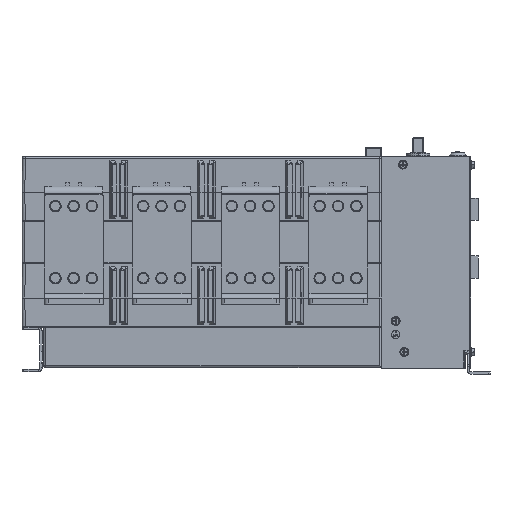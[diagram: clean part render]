
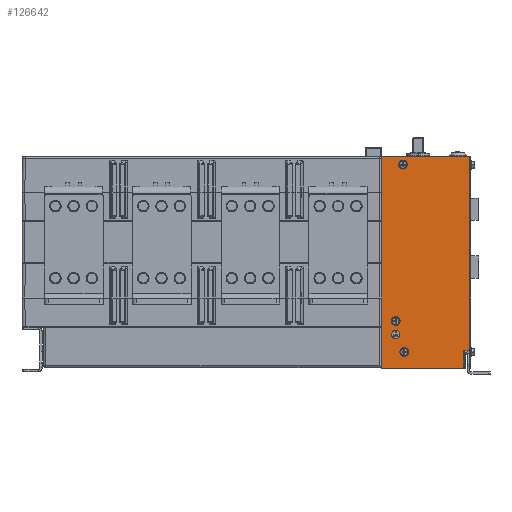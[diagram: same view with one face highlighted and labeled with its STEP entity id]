
A CAD part, left-side view. The second image highlights one B-rep face of the part: STEP entity #126642.
In plain terms, the highlighted planar face has unit normal (-1, 0, 0) as drawn and (1, 0, 0) by its records, which use the part's own axes.
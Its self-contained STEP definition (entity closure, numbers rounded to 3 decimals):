
#125186=DIRECTION('',(0.,0.,-1.));
#125187=VECTOR('',#125186,265.);
#125188=CARTESIAN_POINT('',(101.,2.,120.5));
#125189=LINE('',#125188,#125187);
#125211=DIRECTION('',(0.,0.,1.));
#125212=VECTOR('',#125211,24.);
#125213=CARTESIAN_POINT('',(101.,10.,120.5));
#125214=LINE('',#125213,#125212);
#125215=DIRECTION('',(0.,-1.,0.));
#125216=VECTOR('',#125215,120.);
#125217=CARTESIAN_POINT('',(101.,122.,-144.5));
#125218=LINE('',#125217,#125216);
#125219=CARTESIAN_POINT('',(101.,93.,-133.5));
#125220=DIRECTION('',(1.,0.,0.));
#125221=DIRECTION('',(0.,0.,-1.));
#125222=AXIS2_PLACEMENT_3D('',#125219,#125220,#125221);
#125224=CARTESIAN_POINT('',(101.,93.,-133.5));
#125225=DIRECTION('',(1.,0.,0.));
#125226=DIRECTION('',(0.,0.,1.));
#125227=AXIS2_PLACEMENT_3D('',#125224,#125225,#125226);
#125229=CARTESIAN_POINT('',(101.,91.,122.5));
#125230=DIRECTION('',(1.,0.,0.));
#125231=DIRECTION('',(0.,0.,-1.));
#125232=AXIS2_PLACEMENT_3D('',#125229,#125230,#125231);
#125234=CARTESIAN_POINT('',(101.,91.,122.5));
#125235=DIRECTION('',(1.,0.,0.));
#125236=DIRECTION('',(0.,0.,1.));
#125237=AXIS2_PLACEMENT_3D('',#125234,#125235,#125236);
#125239=CARTESIAN_POINT('',(101.,102.642,80.068));
#125240=DIRECTION('',(1.,0.,0.));
#125241=DIRECTION('',(0.,0.,-1.));
#125242=AXIS2_PLACEMENT_3D('',#125239,#125240,#125241);
#125244=CARTESIAN_POINT('',(101.,102.642,80.068));
#125245=DIRECTION('',(1.,0.,0.));
#125246=DIRECTION('',(0.,0.,1.));
#125247=AXIS2_PLACEMENT_3D('',#125244,#125245,#125246);
#125249=CARTESIAN_POINT('',(101.,102.642,98.56));
#125250=DIRECTION('',(1.,0.,0.));
#125251=DIRECTION('',(0.,-1.,0.));
#125252=AXIS2_PLACEMENT_3D('',#125249,#125250,#125251);
#125254=CARTESIAN_POINT('',(101.,102.642,98.56));
#125255=DIRECTION('',(1.,0.,0.));
#125256=DIRECTION('',(0.,1.,0.));
#125257=AXIS2_PLACEMENT_3D('',#125254,#125255,#125256);
#125263=DIRECTION('',(0.,-1.,0.));
#125264=VECTOR('',#125263,8.);
#125265=CARTESIAN_POINT('',(101.,10.,120.5));
#125266=LINE('',#125265,#125264);
#125554=DIRECTION('',(0.,0.,1.));
#125555=VECTOR('',#125554,289.);
#125556=CARTESIAN_POINT('',(101.,122.,-144.5));
#125557=LINE('',#125556,#125555);
#125566=DIRECTION('',(0.,-1.,0.));
#125567=VECTOR('',#125566,112.);
#125568=CARTESIAN_POINT('',(101.,122.,144.5));
#125569=LINE('',#125568,#125567);
#126192=CARTESIAN_POINT('',(101.,2.,-144.5));
#126193=VERTEX_POINT('',#126192);
#126196=CARTESIAN_POINT('',(101.,2.,120.5));
#126197=VERTEX_POINT('',#126196);
#126198=CARTESIAN_POINT('',(101.,122.,-144.5));
#126199=VERTEX_POINT('',#126198);
#126206=CARTESIAN_POINT('',(101.,10.,120.5));
#126207=VERTEX_POINT('',#126206);
#126208=CARTESIAN_POINT('',(101.,10.,144.5));
#126209=VERTEX_POINT('',#126208);
#126210=CARTESIAN_POINT('',(101.,122.,144.5));
#126211=VERTEX_POINT('',#126210);
#126212=CARTESIAN_POINT('',(101.,93.,-137.));
#126213=CARTESIAN_POINT('',(101.,93.,-130.));
#126214=VERTEX_POINT('',#126212);
#126215=VERTEX_POINT('',#126213);
#126216=CARTESIAN_POINT('',(101.,91.,119.));
#126217=CARTESIAN_POINT('',(101.,91.,126.));
#126218=VERTEX_POINT('',#126216);
#126219=VERTEX_POINT('',#126217);
#126220=CARTESIAN_POINT('',(101.,102.642,76.568));
#126221=CARTESIAN_POINT('',(101.,102.642,83.568));
#126222=VERTEX_POINT('',#126220);
#126223=VERTEX_POINT('',#126221);
#126224=CARTESIAN_POINT('',(101.,96.952,98.56));
#126225=CARTESIAN_POINT('',(101.,108.332,98.56));
#126226=VERTEX_POINT('',#126224);
#126227=VERTEX_POINT('',#126225);
#126601=CARTESIAN_POINT('',(101.,0.,144.5));
#126602=DIRECTION('',(1.,0.,0.));
#126603=DIRECTION('',(0.,0.,-1.));
#126604=AXIS2_PLACEMENT_3D('',#126601,#126602,#126603);
#126605=PLANE('',#126604);
#126606=ORIENTED_EDGE('',*,*,#126576,.F.);
#126608=ORIENTED_EDGE('',*,*,#126607,.F.);
#126610=ORIENTED_EDGE('',*,*,#126609,.T.);
#126612=ORIENTED_EDGE('',*,*,#126611,.F.);
#126614=ORIENTED_EDGE('',*,*,#126613,.F.);
#126615=ORIENTED_EDGE('',*,*,#126587,.T.);
#126616=EDGE_LOOP('',(#126606,#126608,#126610,#126612,#126614,#126615));
#126617=FACE_OUTER_BOUND('',#126616,.F.);
#126619=ORIENTED_EDGE('',*,*,#126618,.T.);
#126621=ORIENTED_EDGE('',*,*,#126620,.T.);
#126622=EDGE_LOOP('',(#126619,#126621));
#126623=FACE_BOUND('',#126622,.F.);
#126625=ORIENTED_EDGE('',*,*,#126624,.T.);
#126627=ORIENTED_EDGE('',*,*,#126626,.T.);
#126628=EDGE_LOOP('',(#126625,#126627));
#126629=FACE_BOUND('',#126628,.F.);
#126631=ORIENTED_EDGE('',*,*,#126630,.T.);
#126633=ORIENTED_EDGE('',*,*,#126632,.T.);
#126634=EDGE_LOOP('',(#126631,#126633));
#126635=FACE_BOUND('',#126634,.F.);
#126637=ORIENTED_EDGE('',*,*,#126636,.T.);
#126639=ORIENTED_EDGE('',*,*,#126638,.T.);
#126640=EDGE_LOOP('',(#126637,#126639));
#126641=FACE_BOUND('',#126640,.F.);
#125223=CIRCLE('',#125222,3.5);
#125228=CIRCLE('',#125227,3.5);
#125233=CIRCLE('',#125232,3.5);
#125238=CIRCLE('',#125237,3.5);
#125243=CIRCLE('',#125242,3.5);
#125248=CIRCLE('',#125247,3.5);
#125253=CIRCLE('',#125252,5.69);
#125258=CIRCLE('',#125257,5.69);
#126576=EDGE_CURVE('',#126197,#126193,#125189,.T.);
#126587=EDGE_CURVE('',#126199,#126193,#125218,.T.);
#126607=EDGE_CURVE('',#126207,#126197,#125266,.T.);
#126609=EDGE_CURVE('',#126207,#126209,#125214,.T.);
#126611=EDGE_CURVE('',#126211,#126209,#125569,.T.);
#126613=EDGE_CURVE('',#126199,#126211,#125557,.T.);
#126618=EDGE_CURVE('',#126214,#126215,#125223,.T.);
#126620=EDGE_CURVE('',#126215,#126214,#125228,.T.);
#126624=EDGE_CURVE('',#126218,#126219,#125233,.T.);
#126626=EDGE_CURVE('',#126219,#126218,#125238,.T.);
#126630=EDGE_CURVE('',#126222,#126223,#125243,.T.);
#126632=EDGE_CURVE('',#126223,#126222,#125248,.T.);
#126636=EDGE_CURVE('',#126226,#126227,#125253,.T.);
#126638=EDGE_CURVE('',#126227,#126226,#125258,.T.);
#126642=ADVANCED_FACE('',(#126617,#126623,#126629,#126635,#126641),#126605,.T.);
